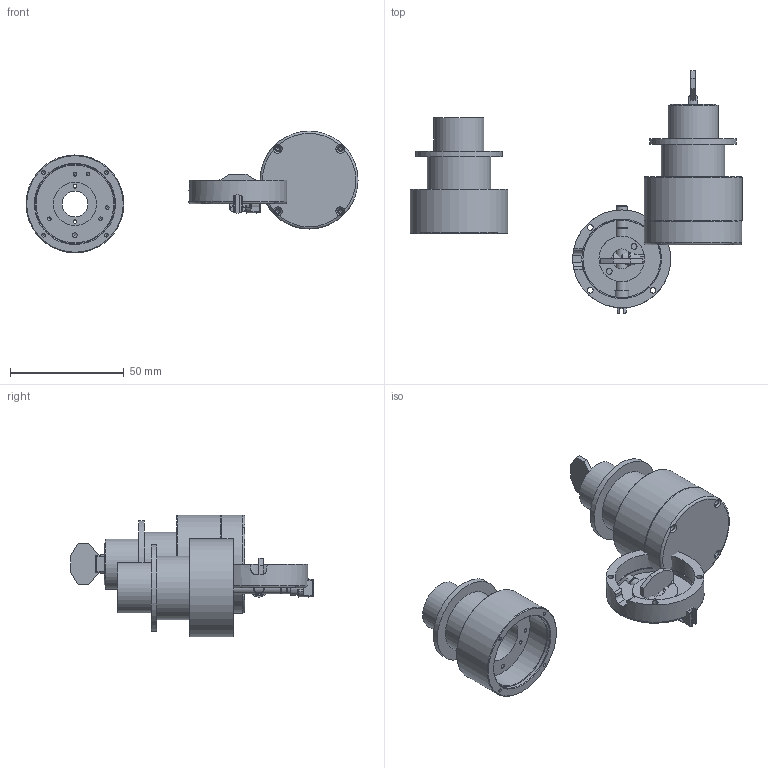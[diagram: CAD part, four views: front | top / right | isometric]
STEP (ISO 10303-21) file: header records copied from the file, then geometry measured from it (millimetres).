
FILE_DESCRIPTION( ( 'Unknown' ), '1' );
FILE_NAME( 'F:/方头/外形尺寸图/电机/3D/光栅电机/10mm光电光栅国产编码器模型-X.stp', 'Unknown', ( 'Unknown' ), ( 'Unknown' ), 'XStep 1.0', 'Unknown', ' ' );
FILE_SCHEMA( ( 'automotive_design' ) );
Length unit declared in the file: millimetre
Products named in the file (9): Assem1; Assem2; 1_1; 2; 3; 4; 5; 6; SCANLS10-1064-01A 10-1064-噩t
Bounding box: 145.85 x 106.66 x 53.48 mm (x, y, z)
Volume: 63547.5 mm3; surface area: 42932.2 mm2
Topology: 17 solids, 17 shells, 396 faces, 944 edges, 619 vertices
Faces by surface type: plane 175, cylinder 148, cone 59, torus 14
Full cylindrical faces by diameter (mm): 0.1 x2, 1.075 x6, 1.567 x22, 1.9 x4, 2.013 x2, 2.2 x3, 2.5 x12, 4.3 x12, 4.4 x3, 5 x3, 5.15 x3, 5.18 x6, 5.4 x3, 5.6 x3, 6.35 x3, 7 x3, 8.7 x2, 11.3 x2, 19 x2, 20 x4, 22 x2, 28 x2, 34 x2, 34.2 x2, 35 x4, 38 x2, 43 x4
Entity records: 4682 total; most frequent: CARTESIAN_POINT 977, DIRECTION 752, ORIENTED_EDGE 544, AXIS2_PLACEMENT_3D 327, EDGE_LOOP 282, EDGE_CURVE 272, VERTEX_POINT 228, FACE_OUTER_BOUND 220
